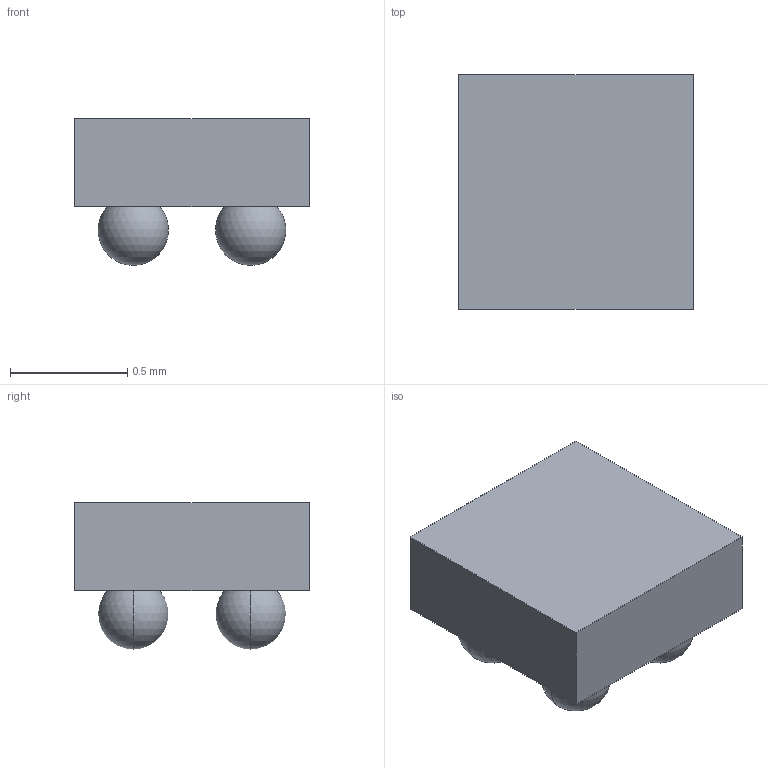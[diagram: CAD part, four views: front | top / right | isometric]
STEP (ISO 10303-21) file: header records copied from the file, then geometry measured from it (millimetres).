
FILE_DESCRIPTION((''),'2;1');
FILE_NAME('YBG0004_ASM','2021-02-19T07:55:51',('a0412086'),(''),'CREO PARAMETRIC BY PTC INC, 2018500','CREO PARAMETRIC BY PTC INC, 2018500','');
FILE_SCHEMA(('CONFIG_CONTROL_DESIGN','SHAPE_APPEARANCE_LAYERS_GROUPS'));
Length unit declared in the file: millimetre
Products named in the file (4): BODY; SOLDER_BALL; PIN1_AREA; YBG0004_ASM
Assembly tree (6 placements, depth 2):
  YBG0004_ASM
    BODY
    SOLDER_BALL  x4
    PIN1_AREA
Bounding box: 1 x 1 x 0.62 mm (x, y, z)
Volume: 0.4 mm3; surface area: 4.6 mm2
Topology: 5 solids, 5 shells, 18 faces, 36 edges, 20 vertices
Faces by surface type: plane 10, sphere 8
Entity records: 449 total; most frequent: DIRECTION 58, CARTESIAN_POINT 46, ORIENTED_EDGE 32, COLOUR_RGB 28, AXIS2_PLACEMENT_3D 23, PRESENTATION_STYLE_ASSIGNMENT 18, STYLED_ITEM 18, CURVE_STYLE 16
